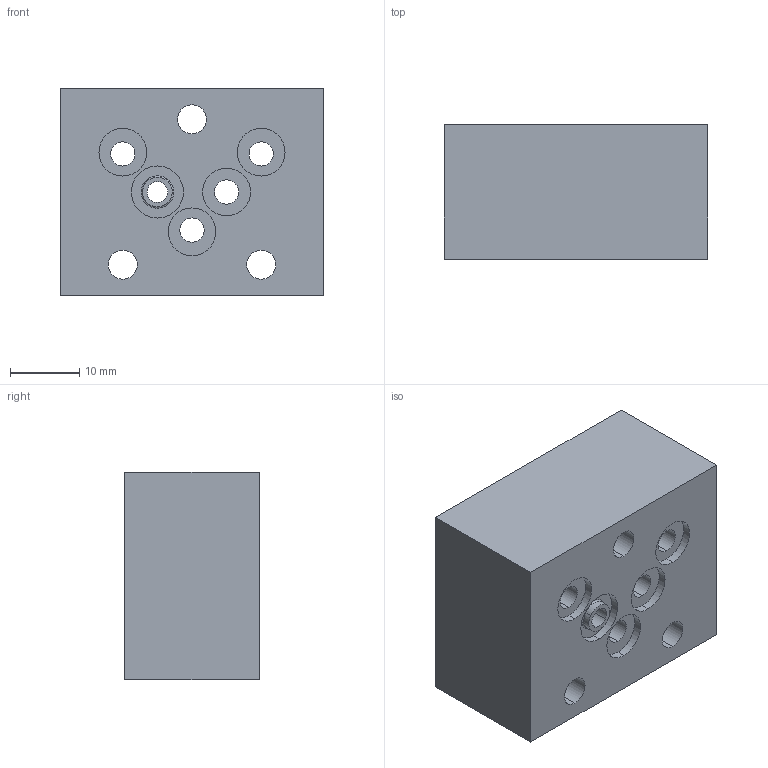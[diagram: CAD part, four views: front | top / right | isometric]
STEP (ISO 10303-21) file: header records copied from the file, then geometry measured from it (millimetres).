
FILE_DESCRIPTION (( 'STEP AP214' ), '1' );
FILE_NAME ('RNNSA036-A.STEP', '2017-04-11T09:31:56', ( '' ), ( '' ), 'SwSTEP 2.0', 'SolidWorks 2016', '' );
FILE_SCHEMA (( 'AUTOMOTIVE_DESIGN' ));
Length unit declared in the file: millimetre
Products named in the file (1): RNNSA036-A
Bounding box: 38 x 19.5 x 30 mm (x, y, z)
Volume: 20362.2 mm3; surface area: 6665.8 mm2
Topology: 1 solids, 1 shells, 42 faces, 100 edges, 66 vertices
Faces by surface type: cylinder 28, plane 12, torus 2
Entity records: 1776 total; most frequent: DIRECTION 246, CARTESIAN_POINT 209, ORIENTED_EDGE 200, AXIS2_PLACEMENT_3D 103, EDGE_CURVE 100, VERTEX_POINT 66, EDGE_LOOP 64, CIRCLE 60
